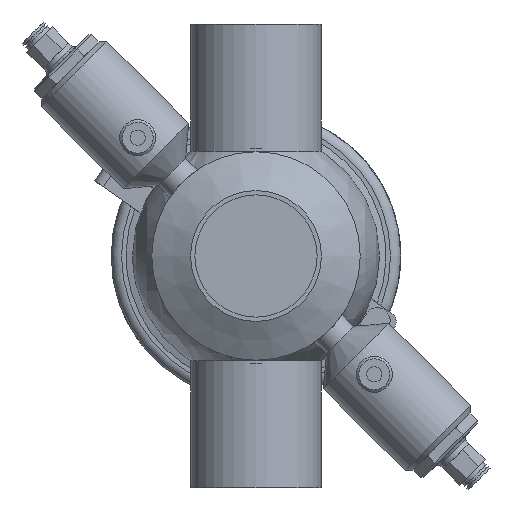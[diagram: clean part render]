
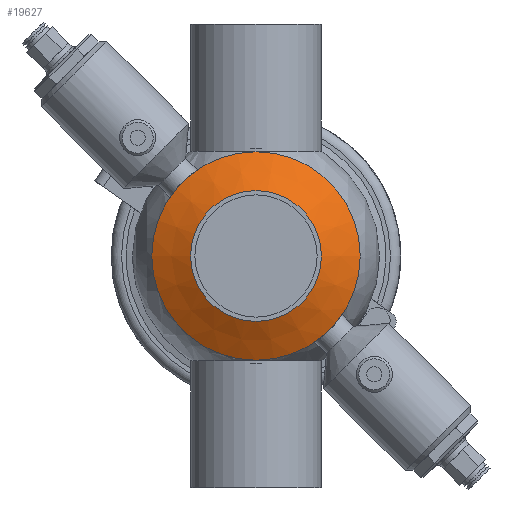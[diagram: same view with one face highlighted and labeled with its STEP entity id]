
A CAD part, front view. The second image highlights one B-rep face of the part: STEP entity #19627.
In plain terms, the highlighted conical face has half-angle 60 degrees and reference radius 40.5 mm.
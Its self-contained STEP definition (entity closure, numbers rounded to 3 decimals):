
#416 = CARTESIAN_POINT ( 'NONE',  ( 0., -48., 0. ) ) ;
#2976 = CARTESIAN_POINT ( 'NONE',  ( 0., -56.718, 0. ) ) ;
#3313 = AXIS2_PLACEMENT_3D ( 'NONE', #22127, #7983, #18515 ) ;
#3801 = VERTEX_POINT ( 'NONE', #11094 ) ;
#4315 = ORIENTED_EDGE ( 'NONE', *, *, #7926, .F. ) ;
#5504 = ORIENTED_EDGE ( 'NONE', *, *, #21034, .T. ) ;
#6617 = EDGE_LOOP ( 'NONE', ( #4315 ) ) ;
#7740 = DIRECTION ( 'NONE',  ( 0., 1., 0. ) ) ;
#7926 = EDGE_CURVE ( 'NONE', #3801, #3801, #22557, .T. ) ;
#7983 = DIRECTION ( 'NONE',  ( 0., 1., 0. ) ) ;
#8354 = VERTEX_POINT ( 'NONE', #12277 ) ;
#8833 = DIRECTION ( 'NONE',  ( 0., 1., 0. ) ) ;
#9411 = EDGE_LOOP ( 'NONE', ( #5504 ) ) ;
#9633 = FACE_OUTER_BOUND ( 'NONE', #6617, .T. ) ;
#11094 = CARTESIAN_POINT ( 'NONE',  ( 0., -48., 40.5 ) ) ;
#11943 = DIRECTION ( 'NONE',  ( 0., 0., 1. ) ) ;
#11987 = AXIS2_PLACEMENT_3D ( 'NONE', #2976, #8833, #11943 ) ;
#12277 = CARTESIAN_POINT ( 'NONE',  ( 0., -56.718, 25.4 ) ) ;
#13655 = CONICAL_SURFACE ( 'NONE', #3313, 40.5, 1.047 ) ;
#14661 = CIRCLE ( 'NONE', #11987, 25.4 ) ;
#18515 = DIRECTION ( 'NONE',  ( 0., 0., 1. ) ) ;
#19627 = ADVANCED_FACE ( 'NONE', ( #22612, #9633 ), #13655, .T. ) ;
#20557 = DIRECTION ( 'NONE',  ( 0., 0., 1. ) ) ;
#21034 = EDGE_CURVE ( 'NONE', #8354, #8354, #14661, .T. ) ;
#21398 = AXIS2_PLACEMENT_3D ( 'NONE', #416, #7740, #20557 ) ;
#22127 = CARTESIAN_POINT ( 'NONE',  ( 0., -48., 0. ) ) ;
#22557 = CIRCLE ( 'NONE', #21398, 40.5 ) ;
#22612 = FACE_BOUND ( 'NONE', #9411, .T. ) ;
